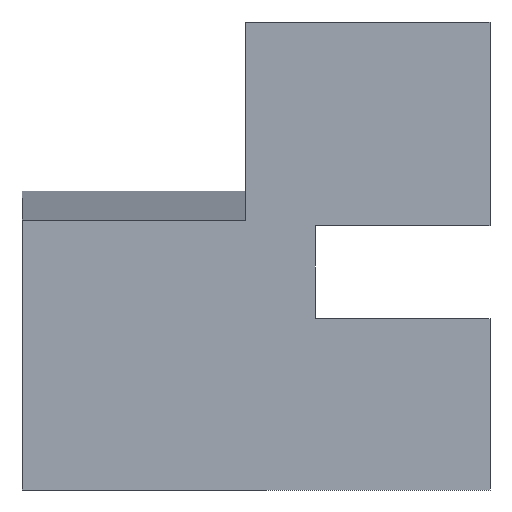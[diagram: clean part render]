
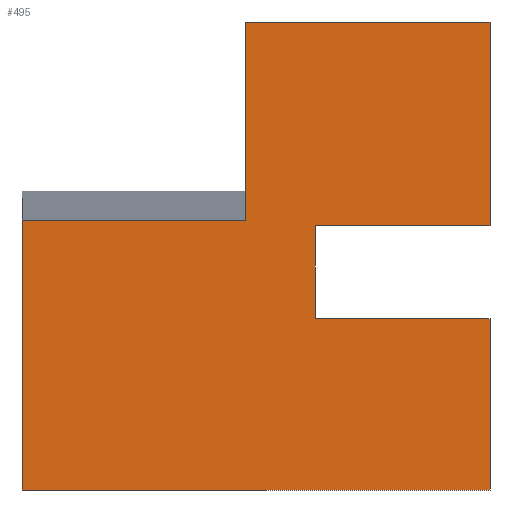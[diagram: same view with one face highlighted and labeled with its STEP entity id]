
A CAD part, left-side view. The second image highlights one B-rep face of the part: STEP entity #495.
In plain terms, the highlighted planar face has unit normal (-1, 0, 0).
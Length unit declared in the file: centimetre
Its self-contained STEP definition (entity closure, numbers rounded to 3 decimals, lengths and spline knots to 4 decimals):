
#6 = ORIENTED_EDGE ( 'NONE', *, *, #148, .F. ) ;
#7 = CARTESIAN_POINT ( 'NONE',  ( 0., 1000., 0. ) ) ;
#10 = DIRECTION ( 'NONE',  ( 0., 0., -1. ) ) ;
#21 = PLANE ( 'NONE',  #269 ) ;
#31 = VERTEX_POINT ( 'NONE', #334 ) ;
#36 = ORIENTED_EDGE ( 'NONE', *, *, #217, .F. ) ;
#70 = CARTESIAN_POINT ( 'NONE',  ( 0., 0., 366.4148 ) ) ;
#76 = CARTESIAN_POINT ( 'NONE',  ( 0., 1000., 1000. ) ) ;
#86 = CARTESIAN_POINT ( 'NONE',  ( 0., 0., 366.4148 ) ) ;
#89 = ORIENTED_EDGE ( 'NONE', *, *, #627, .F. ) ;
#91 = CARTESIAN_POINT ( 'NONE',  ( 0., 522.5661, 1000. ) ) ;
#97 = CARTESIAN_POINT ( 'NONE',  ( 0., 372.9796, 366.4148 ) ) ;
#118 = VECTOR ( 'NONE', #198, 100. ) ;
#124 = LINE ( 'NONE', #421, #588 ) ;
#148 = EDGE_CURVE ( 'NONE', #189, #630, #251, .T. ) ;
#161 = ORIENTED_EDGE ( 'NONE', *, *, #294, .T. ) ;
#165 = DIRECTION ( 'NONE',  ( 0., -1., 0. ) ) ;
#187 = ORIENTED_EDGE ( 'NONE', *, *, #446, .F. ) ;
#189 = VERTEX_POINT ( 'NONE', #543 ) ;
#198 = DIRECTION ( 'NONE',  ( 0., 0., -1. ) ) ;
#207 = LINE ( 'NONE', #97, #118 ) ;
#210 = LINE ( 'NONE', #7, #576 ) ;
#212 = VERTEX_POINT ( 'NONE', #494 ) ;
#213 = LINE ( 'NONE', #407, #545 ) ;
#217 = EDGE_CURVE ( 'NONE', #630, #455, #207, .T. ) ;
#227 = DIRECTION ( 'NONE',  ( 1., 0., 0. ) ) ;
#231 = DIRECTION ( 'NONE',  ( 0., 0., -1. ) ) ;
#234 = VERTEX_POINT ( 'NONE', #340 ) ;
#235 = VERTEX_POINT ( 'NONE', #91 ) ;
#251 = LINE ( 'NONE', #347, #442 ) ;
#256 = DIRECTION ( 'NONE',  ( 0., 1., 0. ) ) ;
#257 = VECTOR ( 'NONE', #616, 100. ) ;
#269 = AXIS2_PLACEMENT_3D ( 'NONE', #76, #227, #469 ) ;
#272 = ORIENTED_EDGE ( 'NONE', *, *, #384, .T. ) ;
#274 = DIRECTION ( 'NONE',  ( 0., 0., 1. ) ) ;
#294 = EDGE_CURVE ( 'NONE', #31, #335, #210, .T. ) ;
#298 = CARTESIAN_POINT ( 'NONE',  ( 0., 372.9796, 564.9565 ) ) ;
#307 = VECTOR ( 'NONE', #274, 100. ) ;
#311 = EDGE_CURVE ( 'NONE', #212, #369, #456, .T. ) ;
#312 = VERTEX_POINT ( 'NONE', #70 ) ;
#326 = FACE_OUTER_BOUND ( 'NONE', #528, .T. ) ;
#334 = CARTESIAN_POINT ( 'NONE',  ( 0., 1000., 0. ) ) ;
#335 = VERTEX_POINT ( 'NONE', #366 ) ;
#338 = DIRECTION ( 'NONE',  ( 0., -1., 0. ) ) ;
#340 = CARTESIAN_POINT ( 'NONE',  ( 0., 0., 1000. ) ) ;
#347 = CARTESIAN_POINT ( 'NONE',  ( 0., 0., 564.9565 ) ) ;
#363 = CARTESIAN_POINT ( 'NONE',  ( 0., 1000., 576.8654 ) ) ;
#366 = CARTESIAN_POINT ( 'NONE',  ( 0., 0., 0. ) ) ;
#368 = VECTOR ( 'NONE', #10, 100. ) ;
#369 = VERTEX_POINT ( 'NONE', #363 ) ;
#370 = CARTESIAN_POINT ( 'NONE',  ( 0., 522.5661, 576.8654 ) ) ;
#375 = CARTESIAN_POINT ( 'NONE',  ( 0., 372.9796, 366.4148 ) ) ;
#378 = VECTOR ( 'NONE', #411, 100. ) ;
#384 = EDGE_CURVE ( 'NONE', #369, #31, #451, .T. ) ;
#390 = EDGE_CURVE ( 'NONE', #235, #234, #213, .T. ) ;
#407 = CARTESIAN_POINT ( 'NONE',  ( 0., 1000., 1000. ) ) ;
#411 = DIRECTION ( 'NONE',  ( 0., 1., 0. ) ) ;
#416 = CARTESIAN_POINT ( 'NONE',  ( 0., 0., 1000. ) ) ;
#421 = CARTESIAN_POINT ( 'NONE',  ( 0., 0., 1000. ) ) ;
#442 = VECTOR ( 'NONE', #256, 100. ) ;
#446 = EDGE_CURVE ( 'NONE', #312, #335, #124, .T. ) ;
#451 = LINE ( 'NONE', #612, #368 ) ;
#455 = VERTEX_POINT ( 'NONE', #375 ) ;
#456 = LINE ( 'NONE', #462, #378 ) ;
#462 = CARTESIAN_POINT ( 'NONE',  ( 0., 522.5661, 576.8654 ) ) ;
#469 = DIRECTION ( 'NONE',  ( 0., 0., -1. ) ) ;
#474 = EDGE_CURVE ( 'NONE', #212, #235, #521, .T. ) ;
#494 = CARTESIAN_POINT ( 'NONE',  ( 0., 522.5661, 576.8654 ) ) ;
#495 = ADVANCED_FACE ( 'NONE', ( #326 ), #21, .F. ) ;
#499 = EDGE_CURVE ( 'NONE', #234, #189, #526, .T. ) ;
#509 = VECTOR ( 'NONE', #338, 100. ) ;
#521 = LINE ( 'NONE', #370, #307 ) ;
#526 = LINE ( 'NONE', #416, #257 ) ;
#528 = EDGE_LOOP ( 'NONE', ( #623, #602, #272, #161, #187, #89, #36, #6, #628, #620 ) ) ;
#543 = CARTESIAN_POINT ( 'NONE',  ( 0., 0., 564.9565 ) ) ;
#545 = VECTOR ( 'NONE', #606, 100. ) ;
#576 = VECTOR ( 'NONE', #165, 100. ) ;
#588 = VECTOR ( 'NONE', #231, 100. ) ;
#595 = LINE ( 'NONE', #86, #509 ) ;
#602 = ORIENTED_EDGE ( 'NONE', *, *, #311, .T. ) ;
#606 = DIRECTION ( 'NONE',  ( 0., -1., 0. ) ) ;
#612 = CARTESIAN_POINT ( 'NONE',  ( 0., 1000., 1000. ) ) ;
#616 = DIRECTION ( 'NONE',  ( 0., 0., -1. ) ) ;
#620 = ORIENTED_EDGE ( 'NONE', *, *, #390, .F. ) ;
#623 = ORIENTED_EDGE ( 'NONE', *, *, #474, .F. ) ;
#627 = EDGE_CURVE ( 'NONE', #455, #312, #595, .T. ) ;
#628 = ORIENTED_EDGE ( 'NONE', *, *, #499, .F. ) ;
#630 = VERTEX_POINT ( 'NONE', #298 ) ;
